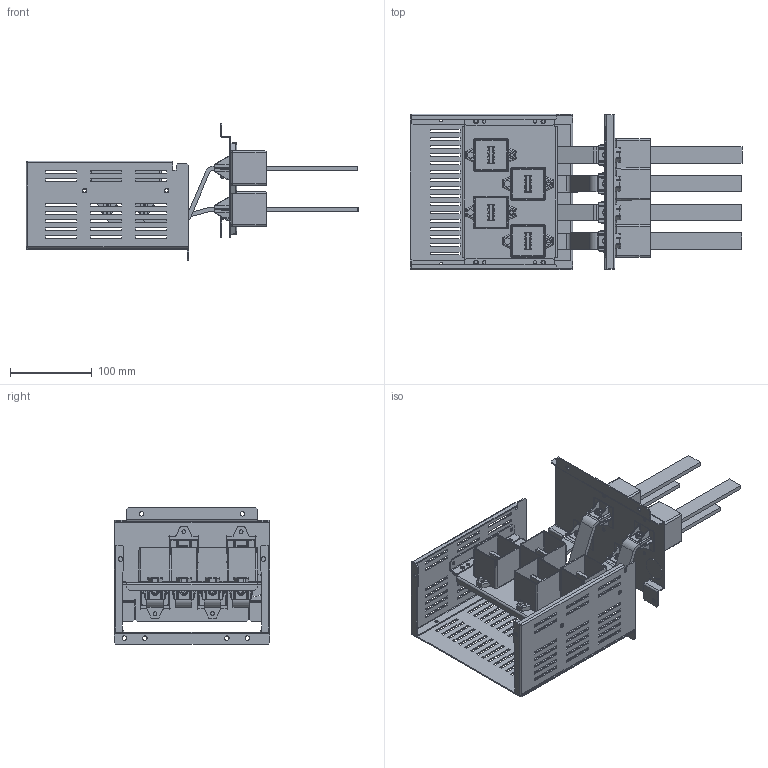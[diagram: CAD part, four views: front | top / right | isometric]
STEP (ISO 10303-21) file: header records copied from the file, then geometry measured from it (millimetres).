
FILE_DESCRIPTION(('CAx-IF Rec.Pracs.---Model Styling and Organization---1.2---2011-12-15','CAx-IF Rec.Pracs.---Geometric and Assembly Validation Properties---4.1---2014-06-16','CAx-IF Rec.Pracs.---PMI Polyline Presentation---2.0---2013-05-24'),'2;1');
FILE_NAME('R5M2W4MST3B.stp','2021-05-05T13:06:03+03:00',(''),(''),'STEP Interface 4.4 by CT CoreTechnologie','3D_Evolution4.4 by CT CoreTechnologie','');
FILE_SCHEMA(('AUTOMOTIVE_DESIGN { 1 0 10303 214 1 1 1 1 }'));
Length unit declared in the file: millimetre
Products named in the file (11): R5M2W4MST3B; V02.ÒÏÀ.08.0041.00.00.0_«ï ¨­áâàãªæ¨¨ ¡¥§ ¯ «ìæ; RB.1217.00.00.0_-00; RB.1242.00.00.0_-01; RB.1410.00.00.1_-01; RB.1263.00.00.0_-00; RB.1263.00.00.0_-01; RB.1458.00.00.0_-02; V02.ÒÏÀ.08.0041.00.00.0_¤«ï ¨­áâàãªæ¨¨ ¯ «¥æ; RB.1583.00.00.1_-00; RB.1583.00.00.1_-01
Assembly tree (27 placements, depth 2):
  R5M2W4MST3B
    V02.ÒÏÀ.08.0041.00.00.0_«ï ¨­áâàãªæ¨¨ ¡¥§ ¯ «ìæ  x8
    RB.1217.00.00.0_-00  x2
    RB.1242.00.00.0_-01
    RB.1410.00.00.1_-01
    RB.1263.00.00.0_-00
    RB.1263.00.00.0_-01
    RB.1458.00.00.0_-02
    V02.ÒÏÀ.08.0041.00.00.0_¤«ï ¨­áâàãªæ¨¨ ¯ «¥æ  x8
    RB.1583.00.00.1_-00  x2
    RB.1583.00.00.1_-01  x2
Bounding box: 405 x 190 x 166.75 mm (x, y, z)
Surface area: 517489.7 mm2 (no closed solid volume)
Topology: 0 solids, 27 shells, 3744 faces, 9628 edges, 5826 vertices
Faces by surface type: plane 1610, bspline 1168, cylinder 966
Entity records: 45324 total; most frequent: CARTESIAN_POINT 14956, ORIENTED_EDGE 6262, DIRECTION 5844, EDGE_CURVE 3131, VECTOR 2324, LINE 2324, VERTEX_POINT 2010, AXIS2_PLACEMENT_3D 1760
